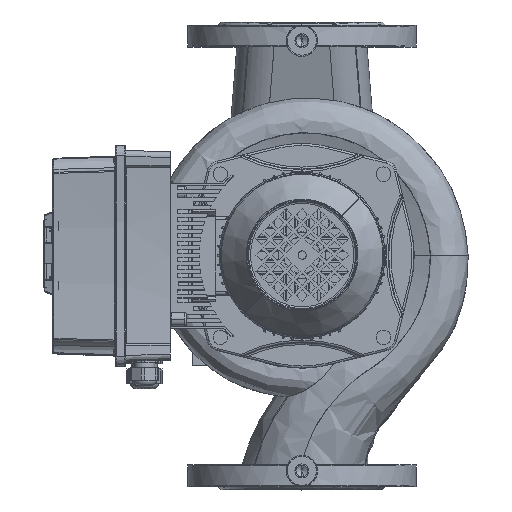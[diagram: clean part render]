
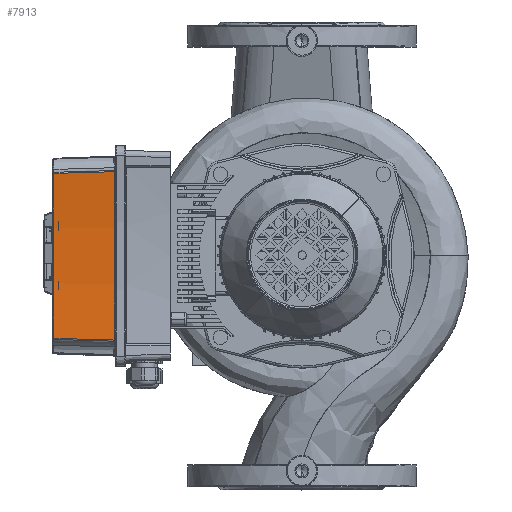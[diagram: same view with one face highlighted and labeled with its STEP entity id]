
A CAD part, top view. The second image highlights one B-rep face of the part: STEP entity #7913.
In plain terms, the highlighted conical face has half-angle 2 degrees and reference radius 845 mm.
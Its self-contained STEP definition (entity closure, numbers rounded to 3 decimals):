
#7913=ADVANCED_FACE('',(#16915),#16916,.F.);
#16915=FACE_OUTER_BOUND('',#37655,.T.);
#16916=CONICAL_SURFACE('',#37656,845.0,0.035);
#37655=EDGE_LOOP('',(#65561,#65562,#65563,#65564));
#37656=AXIS2_PLACEMENT_3D('',#65565,#65566,#65567);
#65561=ORIENTED_EDGE('',*,*,#112345,.F.);
#65562=ORIENTED_EDGE('',*,*,#112400,.F.);
#65563=ORIENTED_EDGE('',*,*,#112361,.F.);
#65564=ORIENTED_EDGE('',*,*,#112389,.F.);
#65565=CARTESIAN_POINT('',(-110.0,1132.065,60.0));
#65566=DIRECTION('',(0.,-0.0,-1.0));
#65567=DIRECTION('',(1.0,0.0,0.));
#112345=EDGE_CURVE('',#143271,#143277,#143278,.T.);
#112361=EDGE_CURVE('',#143298,#143290,#143300,.T.);
#112389=EDGE_CURVE('',#143277,#143298,#143330,.T.);
#112400=EDGE_CURVE('',#143290,#143271,#143342,.T.);
#143271=VERTEX_POINT('',#168929);
#143277=VERTEX_POINT('',#168971);
#143278=B_SPLINE_CURVE_WITH_KNOTS('',3,(#168972,#168973,#168974,#168975,#168976,#168977,#168978,#168979,#168980,#168981,#168982,#168983,#168984,#168985,#168986,#168987,#168988,#168989,#168990,#168991,#168992,#168993,#168994,#168995,#168996),.UNSPECIFIED.,.F.,.F.,(4,3,3,3,3,3,3,3,4),(-60.14,-51.629,-41.43,-35.057,-31.073,-27.089,-20.715,-10.517,-2.006),.UNSPECIFIED.);
#143290=VERTEX_POINT('',#169085);
#143298=VERTEX_POINT('',#169146);
#143300=B_SPLINE_CURVE_WITH_KNOTS('',3,(#169161,#169162,#169163,#169164,#169165,#169166,#169167,#169168,#169169,#169170,#169171,#169172,#169173,#169174,#169175,#169176,#169177,#169178,#169179,#169180,#169181,#169182,#169183,#169184,#169185),.UNSPECIFIED.,.F.,.F.,(4,3,3,3,3,3,3,3,4),(2.006,10.517,20.716,27.09,31.073,35.057,41.431,51.63,60.14),.UNSPECIFIED.);
#143330=CIRCLE('',#169376,847.062);
#143342=CIRCLE('',#169404,845.034);
#168929=CARTESIAN_POINT('',(-190.987,290.921,59.035));
#168971=CARTESIAN_POINT('',(-189.365,288.73,0.965));
#168972=CARTESIAN_POINT('',(-190.987,290.921,59.035));
#168973=CARTESIAN_POINT('',(-190.902,290.814,56.201));
#168974=CARTESIAN_POINT('',(-190.819,290.706,53.368));
#168975=CARTESIAN_POINT('',(-190.736,290.599,50.534));
#168976=CARTESIAN_POINT('',(-190.637,290.47,47.138));
#168977=CARTESIAN_POINT('',(-190.539,290.342,43.743));
#168978=CARTESIAN_POINT('',(-190.442,290.214,40.347));
#168979=CARTESIAN_POINT('',(-190.381,290.133,38.225));
#168980=CARTESIAN_POINT('',(-190.321,290.053,36.103));
#168981=CARTESIAN_POINT('',(-190.261,289.973,33.98));
#168982=CARTESIAN_POINT('',(-190.224,289.923,32.654));
#168983=CARTESIAN_POINT('',(-190.187,289.873,31.327));
#168984=CARTESIAN_POINT('',(-190.15,289.823,30.001));
#168985=CARTESIAN_POINT('',(-190.113,289.773,28.675));
#168986=CARTESIAN_POINT('',(-190.076,289.723,27.348));
#168987=CARTESIAN_POINT('',(-190.04,289.673,26.022));
#168988=CARTESIAN_POINT('',(-189.981,289.593,23.899));
#168989=CARTESIAN_POINT('',(-189.923,289.513,21.777));
#168990=CARTESIAN_POINT('',(-189.865,289.433,19.655));
#168991=CARTESIAN_POINT('',(-189.772,289.305,16.259));
#168992=CARTESIAN_POINT('',(-189.681,289.177,12.863));
#168993=CARTESIAN_POINT('',(-189.59,289.049,9.467));
#168994=CARTESIAN_POINT('',(-189.515,288.943,6.633));
#168995=CARTESIAN_POINT('',(-189.44,288.836,3.799));
#168996=CARTESIAN_POINT('',(-189.365,288.73,0.965));
#169085=CARTESIAN_POINT('',(-29.013,290.921,59.035));
#169146=CARTESIAN_POINT('',(-30.635,288.73,0.965));
#169161=CARTESIAN_POINT('',(-30.635,288.73,0.965));
#169162=CARTESIAN_POINT('',(-30.56,288.836,3.799));
#169163=CARTESIAN_POINT('',(-30.485,288.943,6.633));
#169164=CARTESIAN_POINT('',(-30.41,289.049,9.467));
#169165=CARTESIAN_POINT('',(-30.319,289.177,12.863));
#169166=CARTESIAN_POINT('',(-30.228,289.305,16.259));
#169167=CARTESIAN_POINT('',(-30.135,289.433,19.654));
#169168=CARTESIAN_POINT('',(-30.077,289.513,21.777));
#169169=CARTESIAN_POINT('',(-30.019,289.593,23.899));
#169170=CARTESIAN_POINT('',(-29.96,289.673,26.022));
#169171=CARTESIAN_POINT('',(-29.924,289.723,27.348));
#169172=CARTESIAN_POINT('',(-29.887,289.773,28.674));
#169173=CARTESIAN_POINT('',(-29.85,289.823,30.001));
#169174=CARTESIAN_POINT('',(-29.813,289.873,31.327));
#169175=CARTESIAN_POINT('',(-29.776,289.923,32.654));
#169176=CARTESIAN_POINT('',(-29.739,289.973,33.98));
#169177=CARTESIAN_POINT('',(-29.679,290.053,36.103));
#169178=CARTESIAN_POINT('',(-29.619,290.133,38.225));
#169179=CARTESIAN_POINT('',(-29.558,290.214,40.347));
#169180=CARTESIAN_POINT('',(-29.461,290.342,43.743));
#169181=CARTESIAN_POINT('',(-29.363,290.47,47.139));
#169182=CARTESIAN_POINT('',(-29.264,290.599,50.534));
#169183=CARTESIAN_POINT('',(-29.181,290.706,53.368));
#169184=CARTESIAN_POINT('',(-29.098,290.814,56.201));
#169185=CARTESIAN_POINT('',(-29.013,290.921,59.035));
#169376=AXIS2_PLACEMENT_3D('',#203184,#203185,#203186);
#169404=AXIS2_PLACEMENT_3D('',#203196,#203197,#203198);
#203184=CARTESIAN_POINT('',(-110.0,1132.065,0.965));
#203185=DIRECTION('',(0.,0.,1.0));
#203186=DIRECTION('',(0.0,-1.0,0.));
#203196=CARTESIAN_POINT('',(-110.0,1132.065,59.035));
#203197=DIRECTION('',(-0.0,-0.0,-1.0));
#203198=DIRECTION('',(0.0,-1.0,0.0));
